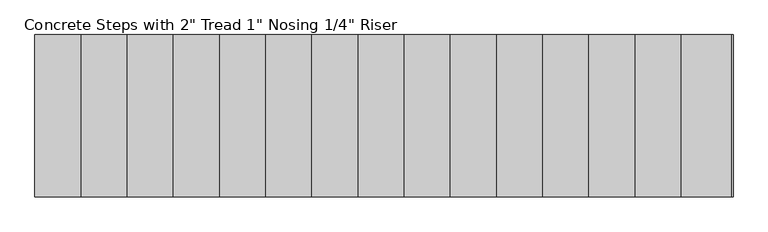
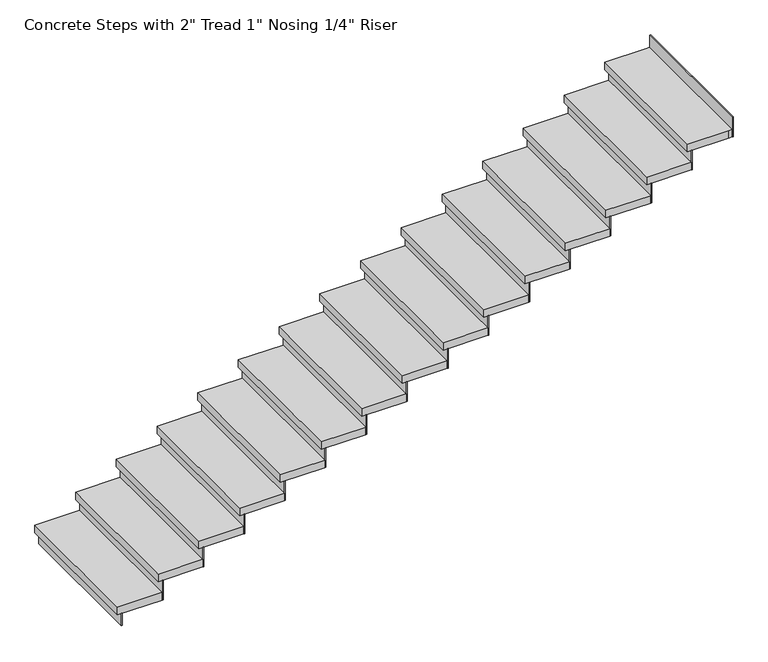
"""IFC4 building model written with IfcOpenShell, lengths in millimetres: stair flight geometry."""

from ifc_helpers import new_model, si_unit, frame, origin, origin_with_axes, place, context, project, spatial, polyline, outline, extrude, source, transform, mapped, element, save


def stair_flight_38834187(model_context):
    return source(origin(), model_context, "Body", "SweptSolid", [
        extrude(outline(polyline([(1403.4721922, 42280.3406645), (1397.1221922, 42280.3406645), (1397.1221922, 43194.7406645), (1403.4721922, 43194.7406645), (1403.4721922, 42280.3406645)])), origin_with_axes(), (0.0, 0.0, 1.0), 81.7217391),
        extrude(outline(polyline([(1657.4721922, 43194.7406645), (1657.4721922, 42280.3406645), (1371.7221922, 42280.3406645), (1371.7221922, 43194.7406645), (1657.4721922, 43194.7406645)])), frame((0.0, 0.0, 81.7217391), z_axis=(0.0, 0.0, 1.0), x_axis=(1.0, 0.0, 0.0)), (0.0, 0.0, 1.0), 50.8),
        extrude(outline(polyline([(1663.8221922, 42280.3406645), (1657.4721922, 42280.3406645), (1657.4721922, 43194.7406645), (1663.8221922, 43194.7406645), (1663.8221922, 42280.3406645)])), frame((0.0, 0.0, 81.7217391), z_axis=(0.0, 0.0, 1.0), x_axis=(1.0, 0.0, 0.0)), (0.0, 0.0, 1.0), 132.5217391),
        extrude(outline(polyline([(1917.8221922, 43194.7406645), (1917.8221922, 42280.3406645), (1632.0721922, 42280.3406645), (1632.0721922, 43194.7406645), (1917.8221922, 43194.7406645)])), frame((0.0, 0.0, 214.2434783), z_axis=(0.0, 0.0, 1.0), x_axis=(1.0, 0.0, 0.0)), (0.0, 0.0, 1.0), 50.8),
        extrude(outline(polyline([(1924.1721922, 42280.3406645), (1917.8221922, 42280.3406645), (1917.8221922, 43194.7406645), (1924.1721922, 43194.7406645), (1924.1721922, 42280.3406645)])), frame((0.0, 0.0, 214.2434783), z_axis=(0.0, 0.0, 1.0), x_axis=(1.0, 0.0, 0.0)), (0.0, 0.0, 1.0), 132.5217391),
        extrude(outline(polyline([(2178.1721922, 43194.7406645), (2178.1721922, 42280.3406645), (1892.4221922, 42280.3406645), (1892.4221922, 43194.7406645), (2178.1721922, 43194.7406645)])), frame((0.0, 0.0, 346.7652174), z_axis=(0.0, 0.0, 1.0), x_axis=(1.0, 0.0, 0.0)), (0.0, 0.0, 1.0), 50.8),
        extrude(outline(polyline([(2184.5221922, 42280.3406645), (2178.1721922, 42280.3406645), (2178.1721922, 43194.7406645), (2184.5221922, 43194.7406645), (2184.5221922, 42280.3406645)])), frame((0.0, 0.0, 346.7652174), z_axis=(0.0, 0.0, 1.0), x_axis=(1.0, 0.0, 0.0)), (0.0, 0.0, 1.0), 132.5217391),
        extrude(outline(polyline([(2438.5221922, 43194.7406645), (2438.5221922, 42280.3406645), (2152.7721922, 42280.3406645), (2152.7721922, 43194.7406645), (2438.5221922, 43194.7406645)])), frame((0.0, 0.0, 479.2869565), z_axis=(0.0, 0.0, 1.0), x_axis=(1.0, 0.0, 0.0)), (0.0, 0.0, 1.0), 50.8),
        extrude(outline(polyline([(2444.8721922, 42280.3406645), (2438.5221922, 42280.3406645), (2438.5221922, 43194.7406645), (2444.8721922, 43194.7406645), (2444.8721922, 42280.3406645)])), frame((0.0, 0.0, 479.2869565), z_axis=(0.0, 0.0, 1.0), x_axis=(1.0, 0.0, 0.0)), (0.0, 0.0, 1.0), 132.5217391),
        extrude(outline(polyline([(2698.8721922, 43194.7406645), (2698.8721922, 42280.3406645), (2413.1221922, 42280.3406645), (2413.1221922, 43194.7406645), (2698.8721922, 43194.7406645)])), frame((0.0, 0.0, 611.8086957), z_axis=(0.0, 0.0, 1.0), x_axis=(1.0, 0.0, 0.0)), (0.0, 0.0, 1.0), 50.8),
        extrude(outline(polyline([(2705.2221922, 42280.3406645), (2698.8721922, 42280.3406645), (2698.8721922, 43194.7406645), (2705.2221922, 43194.7406645), (2705.2221922, 42280.3406645)])), frame((0.0, 0.0, 611.8086957), z_axis=(0.0, 0.0, 1.0), x_axis=(1.0, 0.0, 0.0)), (0.0, 0.0, 1.0), 132.5217391),
        extrude(outline(polyline([(2959.2221922, 43194.7406645), (2959.2221922, 42280.3406645), (2673.4721922, 42280.3406645), (2673.4721922, 43194.7406645), (2959.2221922, 43194.7406645)])), frame((0.0, 0.0, 744.3304348), z_axis=(0.0, 0.0, 1.0), x_axis=(1.0, 0.0, 0.0)), (0.0, 0.0, 1.0), 50.8),
        extrude(outline(polyline([(2965.5721922, 42280.3406645), (2959.2221922, 42280.3406645), (2959.2221922, 43194.7406645), (2965.5721922, 43194.7406645), (2965.5721922, 42280.3406645)])), frame((0.0, 0.0, 744.3304348), z_axis=(0.0, 0.0, 1.0), x_axis=(1.0, 0.0, 0.0)), (0.0, 0.0, 1.0), 132.5217391),
        extrude(outline(polyline([(3219.5721922, 43194.7406645), (3219.5721922, 42280.3406645), (2933.8221922, 42280.3406645), (2933.8221922, 43194.7406645), (3219.5721922, 43194.7406645)])), frame((0.0, 0.0, 876.8521739), z_axis=(0.0, 0.0, 1.0), x_axis=(1.0, 0.0, 0.0)), (0.0, 0.0, 1.0), 50.8),
        extrude(outline(polyline([(3225.9221922, 42280.3406645), (3219.5721922, 42280.3406645), (3219.5721922, 43194.7406645), (3225.9221922, 43194.7406645), (3225.9221922, 42280.3406645)])), frame((0.0, 0.0, 876.8521739), z_axis=(0.0, 0.0, 1.0), x_axis=(1.0, 0.0, 0.0)), (0.0, 0.0, 1.0), 132.5217391),
        extrude(outline(polyline([(3479.9221922, 43194.7406645), (3479.9221922, 42280.3406645), (3194.1721922, 42280.3406645), (3194.1721922, 43194.7406645), (3479.9221922, 43194.7406645)])), frame((0.0, 0.0, 1009.373913), z_axis=(0.0, 0.0, 1.0), x_axis=(1.0, 0.0, 0.0)), (0.0, 0.0, 1.0), 50.8),
        extrude(outline(polyline([(3486.2721922, 42280.3406645), (3479.9221922, 42280.3406645), (3479.9221922, 43194.7406645), (3486.2721922, 43194.7406645), (3486.2721922, 42280.3406645)])), frame((0.0, 0.0, 1009.373913), z_axis=(0.0, 0.0, 1.0), x_axis=(1.0, 0.0, 0.0)), (0.0, 0.0, 1.0), 132.5217391),
        extrude(outline(polyline([(3740.2721922, 43194.7406645), (3740.2721922, 42280.3406645), (3454.5221922, 42280.3406645), (3454.5221922, 43194.7406645), (3740.2721922, 43194.7406645)])), frame((0.0, 0.0, 1141.8956522), z_axis=(0.0, 0.0, 1.0), x_axis=(1.0, 0.0, 0.0)), (0.0, 0.0, 1.0), 50.8),
        extrude(outline(polyline([(3746.6221922, 42280.3406645), (3740.2721922, 42280.3406645), (3740.2721922, 43194.7406645), (3746.6221922, 43194.7406645), (3746.6221922, 42280.3406645)])), frame((0.0, 0.0, 1141.8956522), z_axis=(0.0, 0.0, 1.0), x_axis=(1.0, 0.0, 0.0)), (0.0, 0.0, 1.0), 132.5217391),
        extrude(outline(polyline([(4000.6221922, 43194.7406645), (4000.6221922, 42280.3406645), (3714.8721922, 42280.3406645), (3714.8721922, 43194.7406645), (4000.6221922, 43194.7406645)])), frame((0.0, 0.0, 1274.4173913), z_axis=(0.0, 0.0, 1.0), x_axis=(1.0, 0.0, 0.0)), (0.0, 0.0, 1.0), 50.8),
        extrude(outline(polyline([(4006.9721922, 42280.3406645), (4000.6221922, 42280.3406645), (4000.6221922, 43194.7406645), (4006.9721922, 43194.7406645), (4006.9721922, 42280.3406645)])), frame((0.0, 0.0, 1274.4173913), z_axis=(0.0, 0.0, 1.0), x_axis=(1.0, 0.0, 0.0)), (0.0, 0.0, 1.0), 132.5217391),
        extrude(outline(polyline([(4260.9721922, 43194.7406645), (4260.9721922, 42280.3406645), (3975.2221922, 42280.3406645), (3975.2221922, 43194.7406645), (4260.9721922, 43194.7406645)])), frame((0.0, 0.0, 1406.9391304), z_axis=(0.0, 0.0, 1.0), x_axis=(1.0, 0.0, 0.0)), (0.0, 0.0, 1.0), 50.8),
        extrude(outline(polyline([(4267.3221922, 42280.3406645), (4260.9721922, 42280.3406645), (4260.9721922, 43194.7406645), (4267.3221922, 43194.7406645), (4267.3221922, 42280.3406645)])), frame((0.0, 0.0, 1406.9391304), z_axis=(0.0, 0.0, 1.0), x_axis=(1.0, 0.0, 0.0)), (0.0, 0.0, 1.0), 132.5217391),
        extrude(outline(polyline([(4521.3221922, 43194.7406645), (4521.3221922, 42280.3406645), (4235.5721922, 42280.3406645), (4235.5721922, 43194.7406645), (4521.3221922, 43194.7406645)])), frame((0.0, 0.0, 1539.4608696), z_axis=(0.0, 0.0, 1.0), x_axis=(1.0, 0.0, 0.0)), (0.0, 0.0, 1.0), 50.8),
        extrude(outline(polyline([(4527.6721922, 42280.3406645), (4521.3221922, 42280.3406645), (4521.3221922, 43194.7406645), (4527.6721922, 43194.7406645), (4527.6721922, 42280.3406645)])), frame((0.0, 0.0, 1539.4608696), z_axis=(0.0, 0.0, 1.0), x_axis=(1.0, 0.0, 0.0)), (0.0, 0.0, 1.0), 132.5217391),
        extrude(outline(polyline([(4781.6721922, 43194.7406645), (4781.6721922, 42280.3406645), (4495.9221922, 42280.3406645), (4495.9221922, 43194.7406645), (4781.6721922, 43194.7406645)])), frame((0.0, 0.0, 1671.9826087), z_axis=(0.0, 0.0, 1.0), x_axis=(1.0, 0.0, 0.0)), (0.0, 0.0, 1.0), 50.8),
        extrude(outline(polyline([(4788.0221922, 42280.3406645), (4781.6721922, 42280.3406645), (4781.6721922, 43194.7406645), (4788.0221922, 43194.7406645), (4788.0221922, 42280.3406645)])), frame((0.0, 0.0, 1671.9826087), z_axis=(0.0, 0.0, 1.0), x_axis=(1.0, 0.0, 0.0)), (0.0, 0.0, 1.0), 132.5217391),
        extrude(outline(polyline([(5042.0221922, 43194.7406645), (5042.0221922, 42280.3406645), (4756.2721922, 42280.3406645), (4756.2721922, 43194.7406645), (5042.0221922, 43194.7406645)])), frame((0.0, 0.0, 1804.5043478), z_axis=(0.0, 0.0, 1.0), x_axis=(1.0, 0.0, 0.0)), (0.0, 0.0, 1.0), 50.8),
        extrude(outline(polyline([(5308.7221922, 42280.3406645), (5302.3721922, 42280.3406645), (5302.3721922, 43194.7406645), (5308.7221922, 43194.7406645), (5308.7221922, 42280.3406645)])), frame((0.0, 0.0, 1937.026087), z_axis=(0.0, 0.0, 1.0), x_axis=(1.0, 0.0, 0.0)), (0.0, 0.0, 1.0), 132.5217391),
        extrude(outline(polyline([(5048.3721922, 42280.3406645), (5042.0221922, 42280.3406645), (5042.0221922, 43194.7406645), (5048.3721922, 43194.7406645), (5048.3721922, 42280.3406645)])), frame((0.0, 0.0, 1804.5043478), z_axis=(0.0, 0.0, 1.0), x_axis=(1.0, 0.0, 0.0)), (0.0, 0.0, 1.0), 132.5217391),
        extrude(outline(polyline([(5302.3721922, 43194.7406645), (5302.3721922, 42280.3406645), (5276.9721922, 42280.3406645), (5016.6221922, 42280.3406645), (5016.6221922, 43194.7406645), (5276.9721922, 43194.7406645), (5302.3721922, 43194.7406645)])), frame((0.0, 0.0, 1937.026087), z_axis=(0.0, 0.0, 1.0), x_axis=(1.0, 0.0, 0.0)), (0.0, 0.0, 1.0), 50.8),
    ])


if __name__ == "__main__":
    model = new_model("IFC4")
    model_context = context("Model", 3, world=origin())
    ifc_project = project(units=[si_unit("LENGTHUNIT", "METRE", prefix="MILLI")], contexts=[model_context])
    site = spatial("IfcSite", under=ifc_project)
    building = spatial("IfcBuilding", under=site)
    placement = place(None, origin())
    stair_flight_shape = stair_flight_38834187(model_context)
    element("IfcStairFlight", 1, ObjectType="Concrete Steps with 2\" Tread 1\" Nosing 1/4\" Riser", at=placement, inside=building, context=model_context, shape_type="MappedRepresentation", body=[
        mapped(stair_flight_shape, transform((0.0, 0.0, 0.0), x_axis=(1.0, 0.0, 0.0), y_axis=(0.0, 1.0, 0.0), z_axis=(0.0, 0.0, 1.0))),
    ])
    save(model, "model.ifc")
